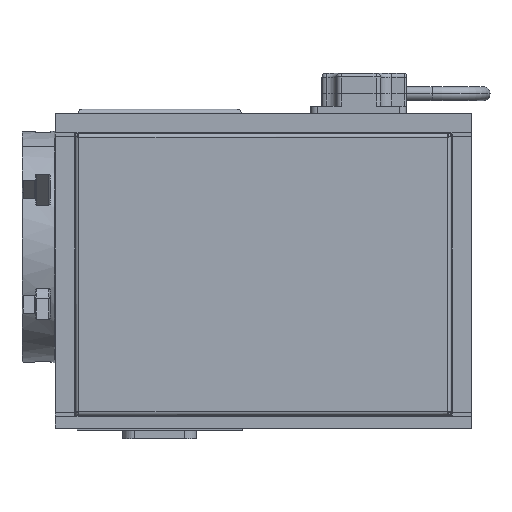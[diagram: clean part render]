
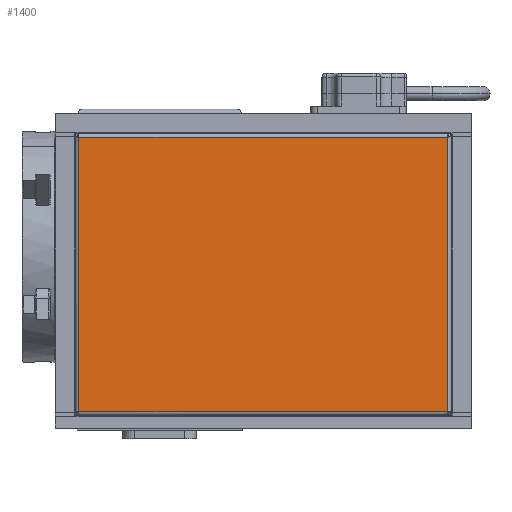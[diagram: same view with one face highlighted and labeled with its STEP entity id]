
A CAD part, top view. The second image highlights one B-rep face of the part: STEP entity #1400.
In plain terms, the highlighted planar face has unit normal (0, 0, 1).
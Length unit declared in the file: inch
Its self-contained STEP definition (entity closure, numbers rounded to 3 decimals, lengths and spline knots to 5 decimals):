
#1400 = ADVANCED_FACE ( 'NONE', ( #66790 ), #3914, .F. ) ;
#3914 = PLANE ( 'NONE',  #4812 ) ;
#4812 = AXIS2_PLACEMENT_3D ( 'NONE', #11017, #40636, #22284 ) ;
#6769 = CARTESIAN_POINT ( 'NONE',  ( -2.21823, 0.4987, 6.1225 ) ) ;
#7745 = CARTESIAN_POINT ( 'NONE',  ( 7.86823, 7.9813, 6.1225 ) ) ;
#8825 = LINE ( 'NONE', #42548, #73462 ) ;
#11017 = CARTESIAN_POINT ( 'NONE',  ( 2.825, 4.24, 6.1225 ) ) ;
#12403 = CARTESIAN_POINT ( 'NONE',  ( -2.2013, 7.9813, 6.1225 ) ) ;
#14119 = DIRECTION ( 'NONE',  ( -1., 0., 0. ) ) ;
#22284 = DIRECTION ( 'NONE',  ( -1., 0., 0. ) ) ;
#25449 = VECTOR ( 'NONE', #29631, 39.37008 ) ;
#26125 = EDGE_LOOP ( 'NONE', ( #56949, #38738, #39970, #32885 ) ) ;
#29631 = DIRECTION ( 'NONE',  ( 1., 0., 0. ) ) ;
#32885 = ORIENTED_EDGE ( 'NONE', *, *, #67251, .T. ) ;
#35542 = VECTOR ( 'NONE', #69574, 39.37008 ) ;
#37481 = CARTESIAN_POINT ( 'NONE',  ( -2.2013, 0.4987, 6.1225 ) ) ;
#38738 = ORIENTED_EDGE ( 'NONE', *, *, #72931, .T. ) ;
#39970 = ORIENTED_EDGE ( 'NONE', *, *, #59265, .T. ) ;
#40636 = DIRECTION ( 'NONE',  ( 0., 0., -1. ) ) ;
#41864 = LINE ( 'NONE', #7745, #43897 ) ;
#42548 = CARTESIAN_POINT ( 'NONE',  ( -2.2013, 7.99823, 6.1225 ) ) ;
#42931 = DIRECTION ( 'NONE',  ( 0., -1., 0. ) ) ;
#43897 = VECTOR ( 'NONE', #14119, 39.37008 ) ;
#45859 = VERTEX_POINT ( 'NONE', #37481 ) ;
#46824 = CARTESIAN_POINT ( 'NONE',  ( 7.8513, 0.48177, 6.1225 ) ) ;
#48656 = VERTEX_POINT ( 'NONE', #59825 ) ;
#51624 = VERTEX_POINT ( 'NONE', #58578 ) ;
#56949 = ORIENTED_EDGE ( 'NONE', *, *, #72629, .T. ) ;
#57421 = VERTEX_POINT ( 'NONE', #12403 ) ;
#58578 = CARTESIAN_POINT ( 'NONE',  ( 7.8513, 0.4987, 6.1225 ) ) ;
#59265 = EDGE_CURVE ( 'NONE', #57421, #45859, #8825, .T. ) ;
#59825 = CARTESIAN_POINT ( 'NONE',  ( 7.8513, 7.9813, 6.1225 ) ) ;
#63272 = LINE ( 'NONE', #46824, #35542 ) ;
#66790 = FACE_OUTER_BOUND ( 'NONE', #26125, .T. ) ;
#67251 = EDGE_CURVE ( 'NONE', #45859, #51624, #68871, .T. ) ;
#68871 = LINE ( 'NONE', #6769, #25449 ) ;
#69574 = DIRECTION ( 'NONE',  ( 0., 1., 0. ) ) ;
#72629 = EDGE_CURVE ( 'NONE', #51624, #48656, #63272, .T. ) ;
#72931 = EDGE_CURVE ( 'NONE', #48656, #57421, #41864, .T. ) ;
#73462 = VECTOR ( 'NONE', #42931, 39.37008 ) ;
